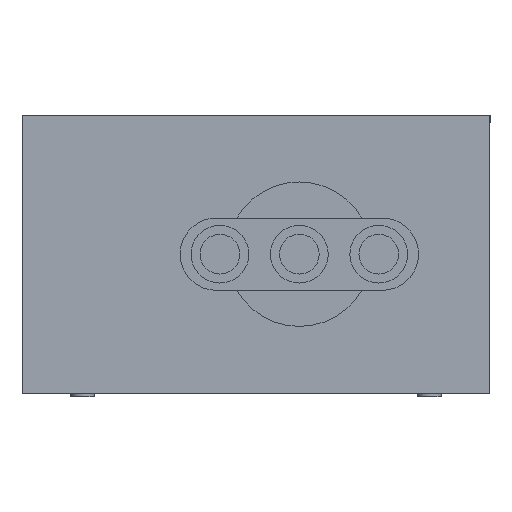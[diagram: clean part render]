
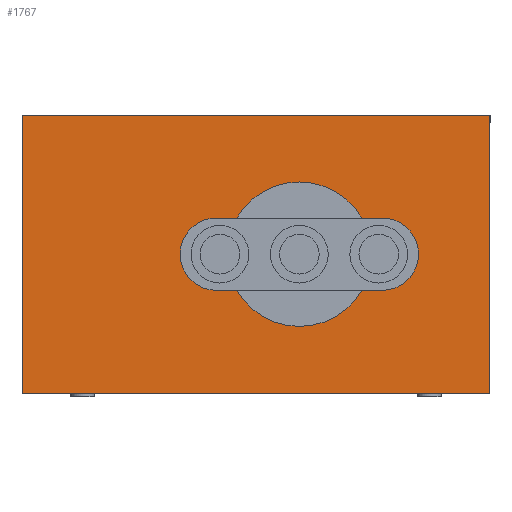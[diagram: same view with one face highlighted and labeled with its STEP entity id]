
A CAD part, left-side view. The second image highlights one B-rep face of the part: STEP entity #1767.
In plain terms, the highlighted planar face has unit normal (-1, 0, 0).
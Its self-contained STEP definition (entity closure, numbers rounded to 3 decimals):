
#1 = DIRECTION ( 'NONE',  ( 0., -1., 0. ) ) ;
#3 = DIRECTION ( 'NONE',  ( -1., 0., 0. ) ) ;
#10 = CARTESIAN_POINT ( 'NONE',  ( -85., -6.4, 19.75 ) ) ;
#12 = VERTEX_POINT ( 'NONE', #173 ) ;
#40 = VERTEX_POINT ( 'NONE', #85 ) ;
#62 = CARTESIAN_POINT ( 'NONE',  ( -85., -32.4, 39. ) ) ;
#69 = CARTESIAN_POINT ( 'NONE',  ( -85., -32.4, 39. ) ) ;
#73 = DIRECTION ( 'NONE',  ( 0., 0., -1. ) ) ;
#80 = CARTESIAN_POINT ( 'NONE',  ( -85., -32.4, 39. ) ) ;
#85 = CARTESIAN_POINT ( 'NONE',  ( -85., -0.92, 13.252 ) ) ;
#94 = CARTESIAN_POINT ( 'NONE',  ( -85., -32.4, 0.5 ) ) ;
#99 = DIRECTION ( 'NONE',  ( 0., -1., 0. ) ) ;
#173 = CARTESIAN_POINT ( 'NONE',  ( -85., 32.4, 0.5 ) ) ;
#209 = CARTESIAN_POINT ( 'NONE',  ( -85., 32.4, 39. ) ) ;
#210 = DIRECTION ( 'NONE',  ( -1., 0., 0. ) ) ;
#218 = DIRECTION ( 'NONE',  ( 0., -1., 0. ) ) ;
#221 = CARTESIAN_POINT ( 'NONE',  ( -85., -6.4, 19.75 ) ) ;
#256 = DIRECTION ( 'NONE',  ( 0., 0., -1. ) ) ;
#258 = CARTESIAN_POINT ( 'NONE',  ( -85., 32.4, 39. ) ) ;
#356 = VERTEX_POINT ( 'NONE', #209 ) ;
#382 = VERTEX_POINT ( 'NONE', #398 ) ;
#398 = CARTESIAN_POINT ( 'NONE',  ( -85., -11.88, 26.248 ) ) ;
#408 = VERTEX_POINT ( 'NONE', #94 ) ;
#434 = VERTEX_POINT ( 'NONE', #80 ) ;
#474 = AXIS2_PLACEMENT_3D ( 'NONE', #918, #895, #894 ) ;
#525 = VECTOR ( 'NONE', #99, 1000. ) ;
#527 = LINE ( 'NONE', #62, #525 ) ;
#529 = LINE ( 'NONE', #69, #530 ) ;
#530 = VECTOR ( 'NONE', #73, 1000. ) ;
#553 = CIRCLE ( 'NONE', #634, 8.5 ) ;
#634 = AXIS2_PLACEMENT_3D ( 'NONE', #221, #210, #218 ) ;
#644 = AXIS2_PLACEMENT_3D ( 'NONE', #10, #3, #1 ) ;
#735 = DIRECTION ( 'NONE',  ( 0., -1., 0. ) ) ;
#736 = CARTESIAN_POINT ( 'NONE',  ( -85., -32.4, 0.5 ) ) ;
#761 = VECTOR ( 'NONE', #735, 1000. ) ;
#762 = LINE ( 'NONE', #736, #761 ) ;
#824 = FACE_BOUND ( 'NONE', #1465, .T. ) ;
#837 = FACE_OUTER_BOUND ( 'NONE', #1500, .T. ) ;
#894 = DIRECTION ( 'NONE',  ( 0., 1., 0. ) ) ;
#895 = DIRECTION ( 'NONE',  ( 1., 0., 0. ) ) ;
#901 = PLANE ( 'NONE',  #474 ) ;
#918 = CARTESIAN_POINT ( 'NONE',  ( -85., -32.4, 39. ) ) ;
#1179 = VECTOR ( 'NONE', #256, 1000. ) ;
#1182 = LINE ( 'NONE', #258, #1179 ) ;
#1194 = EDGE_CURVE ( 'NONE', #382, #40, #1232, .T. ) ;
#1215 = EDGE_CURVE ( 'NONE', #40, #382, #553, .T. ) ;
#1232 = CIRCLE ( 'NONE', #644, 8.5 ) ;
#1327 = ORIENTED_EDGE ( 'NONE', *, *, #1194, .F. ) ;
#1328 = ORIENTED_EDGE ( 'NONE', *, *, #1806, .T. ) ;
#1329 = ORIENTED_EDGE ( 'NONE', *, *, #1215, .F. ) ;
#1331 = ORIENTED_EDGE ( 'NONE', *, *, #1634, .F. ) ;
#1333 = ORIENTED_EDGE ( 'NONE', *, *, #1687, .T. ) ;
#1339 = ORIENTED_EDGE ( 'NONE', *, *, #1635, .F. ) ;
#1465 = EDGE_LOOP ( 'NONE', ( #1327, #1329 ) ) ;
#1500 = EDGE_LOOP ( 'NONE', ( #1328, #1331, #1339, #1333 ) ) ;
#1634 = EDGE_CURVE ( 'NONE', #434, #408, #529, .T. ) ;
#1635 = EDGE_CURVE ( 'NONE', #356, #434, #527, .T. ) ;
#1687 = EDGE_CURVE ( 'NONE', #356, #12, #1182, .T. ) ;
#1767 = ADVANCED_FACE ( 'NONE', ( #824, #837 ), #901, .F. ) ;
#1806 = EDGE_CURVE ( 'NONE', #12, #408, #762, .T. ) ;
